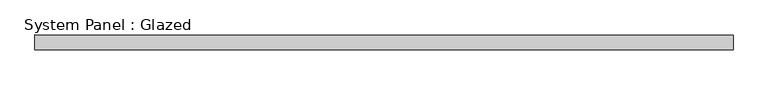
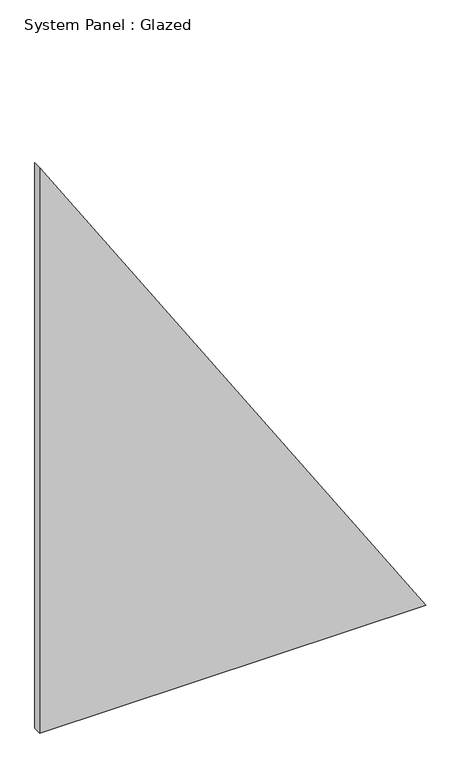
"""IFC4 building model written with IfcOpenShell, lengths in millimetres: plate geometry, System Panel : Glazed."""

from ifc_helpers import new_model, si_unit, frame, origin, place, context, project, spatial, polyline, outline, extrude, source, transform, mapped, element, save


def system_panel_glazed_4aa1e5e2(model_context):
    return source(origin(), model_context, "Body", "SweptSolid", [
        extrude(outline(polyline([(0.0, -597.4218099), (0.0, 597.4218099), (1847.9808351, -597.4218099), (0.0, -597.4218099)])), frame((0.0, -12.5, 0.0), z_axis=(0.0, 1.0, 0.0), x_axis=(0.0, 0.0, 1.0)), (0.0, 0.0, 1.0), 25.0),
    ])


if __name__ == "__main__":
    model = new_model("IFC4")
    model_context = context("Model", 3, world=origin())
    ifc_project = project(units=[si_unit("LENGTHUNIT", "METRE", prefix="MILLI")], contexts=[model_context])
    site = spatial("IfcSite", under=ifc_project)
    building = spatial("IfcBuilding", under=site)
    placement = place(None, origin())
    system_panel_glazed_shape = system_panel_glazed_4aa1e5e2(model_context)
    element("IfcPlate", 1, ObjectType="System Panel : Glazed", at=placement, inside=building, context=model_context, shape_type="MappedRepresentation", body=[
        mapped(system_panel_glazed_shape, transform((0.0, 0.0, 0.0), x_axis=(1.0, 0.0, 0.0), y_axis=(0.0, 1.0, 0.0), z_axis=(0.0, 0.0, 1.0))),
    ])
    save(model, "model.ifc")
